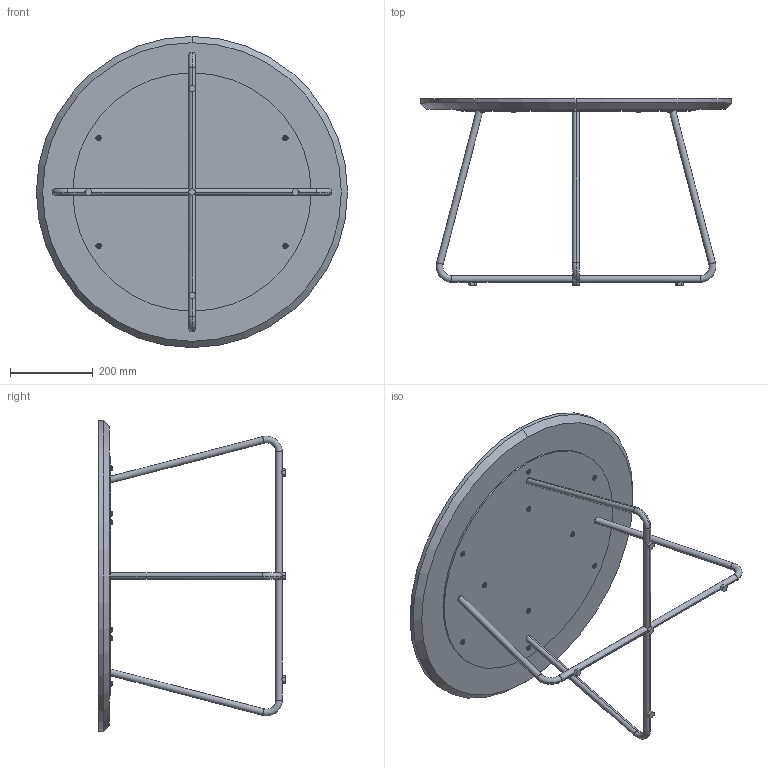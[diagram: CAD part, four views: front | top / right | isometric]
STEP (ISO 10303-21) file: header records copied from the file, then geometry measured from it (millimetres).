
FILE_DESCRIPTION (( 'STEP AP214' ), '1' );
FILE_NAME ('Cork Table - D750XH450.STEP', '2024-04-04T13:32:16', ( '' ), ( '' ), 'SwSTEP 2.0', 'SolidWorks 2023', '' );
FILE_SCHEMA (( 'AUTOMOTIVE_DESIGN' ));
Length unit declared in the file: millimetre
Products named in the file (7): Cork Table - D750XH450; 4 MM SheetR - 01; Wood insert nut_M6R - 01; M6x20MM Hex LevellerR - 01; Metal FrameR - 01_Default<As Machined>; Wooden TopR - 01; M6x16MM Flate head allen BoltR - 01
Assembly tree (28 placements, depth 2):
  Cork Table - D750XH450
    Wooden TopR - 01
    4 MM SheetR - 01
    Metal FrameR - 01_Default<As Machined>
    M6x16MM Flate head allen BoltR - 01  x10
    Wood insert nut_M6R - 01  x10
    M6x20MM Hex LevellerR - 01  x5
Bounding box: 750 x 449 x 750 mm (x, y, z)
Volume: 12413392.8 mm3; surface area: 1628414.7 mm2
Topology: 38 solids, 38 shells, 1277 faces, 3248 edges, 2082 vertices
Faces by surface type: cylinder 708, plane 359, torus 103, bspline 65, cone 42
Entity records: 12960 total; most frequent: CARTESIAN_POINT 6906, ORIENTED_EDGE 1204, DIRECTION 1158, EDGE_CURVE 602, AXIS2_PLACEMENT_3D 468, VERTEX_POINT 391, EDGE_LOOP 291, ADVANCED_FACE 256
